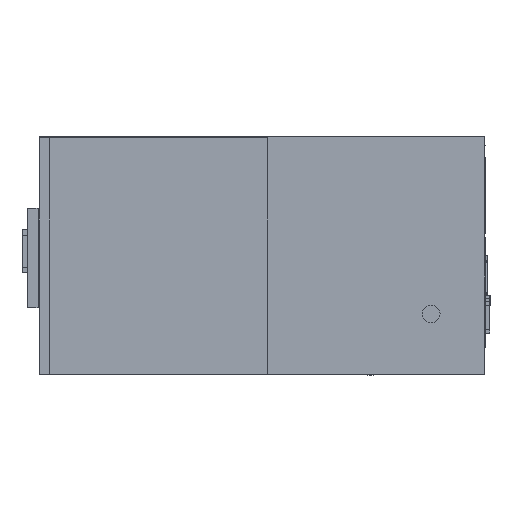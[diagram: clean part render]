
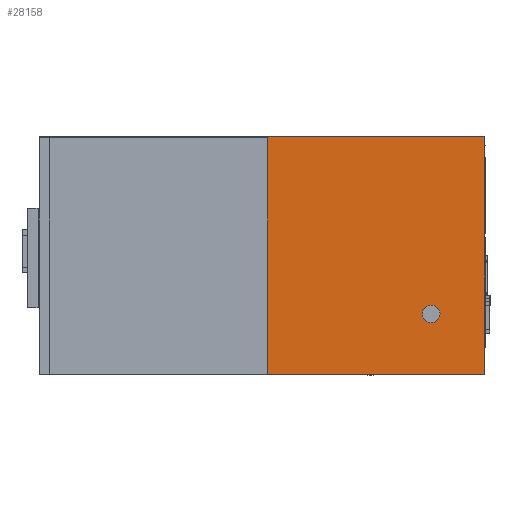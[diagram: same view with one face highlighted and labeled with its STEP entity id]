
A CAD part, left-side view. The second image highlights one B-rep face of the part: STEP entity #28158.
In plain terms, the highlighted planar face has unit normal (-1, 0, 0).
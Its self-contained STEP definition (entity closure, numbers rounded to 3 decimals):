
#28158=ADVANCED_FACE('',(#127004,#127006),#127008,.T.);
#127004=FACE_BOUND('',#127005,.T.);
#127005=EDGE_LOOP('',(#199945,#199946,#199947,#199948));
#127006=FACE_BOUND('',#127007,.T.);
#127007=EDGE_LOOP('',(#199949));
#127008=PLANE('',#127009);
#127009=AXIS2_PLACEMENT_3D('',#127010,#127011,#127012);
#127010=CARTESIAN_POINT('',(-180.,81.75,-1.));
#127011=DIRECTION('',(-1.,-0.,0.));
#127012=DIRECTION('',(0.,-1.,0.));
#199945=ORIENTED_EDGE('',*,*,#272169,.F.);
#199946=ORIENTED_EDGE('',*,*,#272173,.T.);
#199947=ORIENTED_EDGE('',*,*,#272174,.F.);
#199948=ORIENTED_EDGE('',*,*,#271540,.F.);
#199949=ORIENTED_EDGE('',*,*,#272175,.T.);
#271540=EDGE_CURVE('',#305679,#305682,#305683,.T.);
#272169=EDGE_CURVE('',#306729,#305679,#306731,.F.);
#272173=EDGE_CURVE('',#306729,#306738,#306739,.T.);
#272174=EDGE_CURVE('',#305682,#306738,#306740,.T.);
#272175=EDGE_CURVE('',#306741,#306741,#306742,.F.);
#305679=VERTEX_POINT('',#369102);
#305682=VERTEX_POINT('',#369107);
#305683=LINE('',#369108,#369109);
#306729=VERTEX_POINT('',#371442);
#306731=LINE('',#371446,#371447);
#306738=VERTEX_POINT('',#371464);
#306739=LINE('',#371465,#371466);
#306740=LINE('',#371468,#371469);
#306741=VERTEX_POINT('',#371471);
#306742=CIRCLE('',#371472,1.65);
#369102=CARTESIAN_POINT('',(-180.,81.75,0.));
#369107=CARTESIAN_POINT('',(-180.,81.75,44.25));
#369108=CARTESIAN_POINT('',(-180.,81.75,0.));
#369109=VECTOR('',#369110,1.);
#369110=DIRECTION('',(0.,0.,1.));
#371442=CARTESIAN_POINT('',(-180.,-1.15,0.));
#371446=CARTESIAN_POINT('',(-180.,81.75,0.));
#371447=VECTOR('',#371448,1.);
#371448=DIRECTION('',(0.,-1.,0.));
#371464=CARTESIAN_POINT('',(-180.,-1.15,44.25));
#371465=CARTESIAN_POINT('',(-180.,-1.15,0.));
#371466=VECTOR('',#371467,1.);
#371467=DIRECTION('',(0.,0.,1.));
#371468=CARTESIAN_POINT('',(-180.,81.75,44.25));
#371469=VECTOR('',#371470,1.);
#371470=DIRECTION('',(0.,-1.,0.));
#371471=CARTESIAN_POINT('',(-180.,7.2,11.25));
#371472=AXIS2_PLACEMENT_3D('',#371473,#371474,#371475);
#371473=CARTESIAN_POINT('',(-180.,8.85,11.25));
#371474=DIRECTION('',(-1.,-0.,0.));
#371475=DIRECTION('',(0.,-1.,0.));
